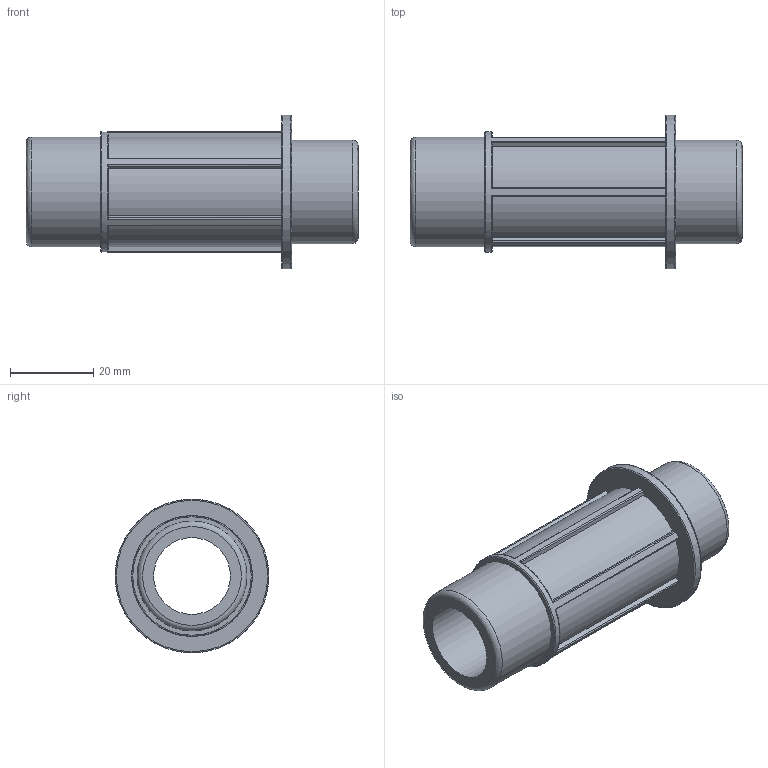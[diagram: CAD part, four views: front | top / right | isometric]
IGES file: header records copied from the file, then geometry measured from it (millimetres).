
Global section: file name: 078901025007.ipt; native system: Autodesk Inventor 2015; preprocessor: unknown; author: KIM; date: 20180409.130840; units: millimetre
Bounding box: 80 x 37 x 37 mm (x, y, z)
Volume: 23572 mm3; surface area: 13605.8 mm2
Topology: 1 solids, 1 shells, 57 faces, 163 edges, 111 vertices
Faces by surface type: plane 23, cylinder 22, revolution 12
Full cylindrical faces by diameter (mm): 25 x1, 26.441 x1, 29.085 x1, 37 x1
